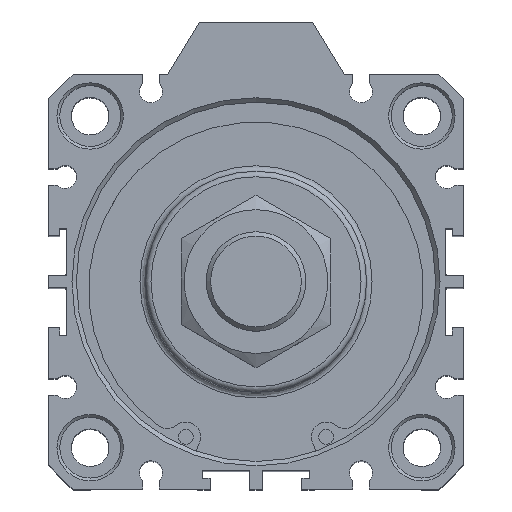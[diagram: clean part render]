
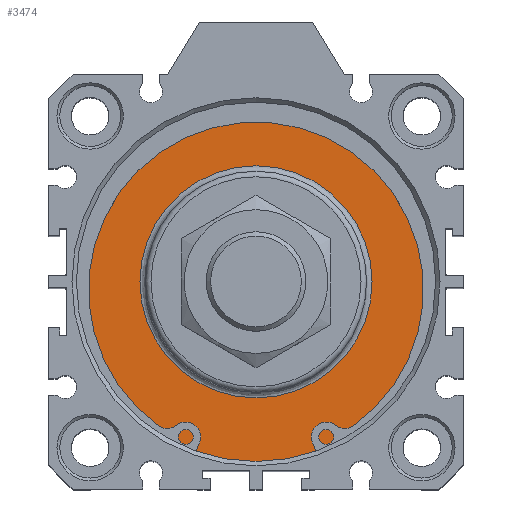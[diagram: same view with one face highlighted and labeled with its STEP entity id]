
A CAD part, top view. The second image highlights one B-rep face of the part: STEP entity #3474.
In plain terms, the highlighted planar face has unit normal (0, 0, 1).
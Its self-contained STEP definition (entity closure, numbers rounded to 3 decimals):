
#3423=CARTESIAN_POINT('',(2.99,22.555,87.3));
#3424=VERTEX_POINT('',#3423);
#3425=CARTESIAN_POINT('',(2.99,1.555,87.3));
#3426=DIRECTION('',(0.0,0.0,1.0));
#3427=DIRECTION('',(0.0,-1.0,0.0));
#3428=AXIS2_PLACEMENT_3D('',#3425,#3426,#3427);
#3429=CIRCLE('',#3428,21.);
#3430=EDGE_CURVE('',#3424,#3424,#3429,.T.);
#3455=CARTESIAN_POINT('',(2.99,27.805,87.3));
#3456=DIRECTION('',(0.0,0.0,1.0));
#3457=DIRECTION('',(1.0,0.0,0.0));
#3458=AXIS2_PLACEMENT_3D('',#3455,#3456,#3457);
#3459=PLANE('',#3458);
#3460=CARTESIAN_POINT('',(2.99,34.055,87.3));
#3461=VERTEX_POINT('',#3460);
#3462=CARTESIAN_POINT('',(2.99,1.555,87.3));
#3463=DIRECTION('',(0.0,0.0,-1.0));
#3464=DIRECTION('',(0.0,1.0,0.0));
#3465=AXIS2_PLACEMENT_3D('',#3462,#3463,#3464);
#3466=CIRCLE('',#3465,32.5);
#3467=EDGE_CURVE('',#3461,#3461,#3466,.T.);
#3468=ORIENTED_EDGE('',*,*,#3467,.F.);
#3469=EDGE_LOOP('',(#3468));
#3470=FACE_OUTER_BOUND('',#3469,.T.);
#3471=ORIENTED_EDGE('',*,*,#3430,.F.);
#3472=EDGE_LOOP('',(#3471));
#3473=FACE_BOUND('',#3472,.T.);
#3474=ADVANCED_FACE('',(#3470,#3473),#3459,.T.);
